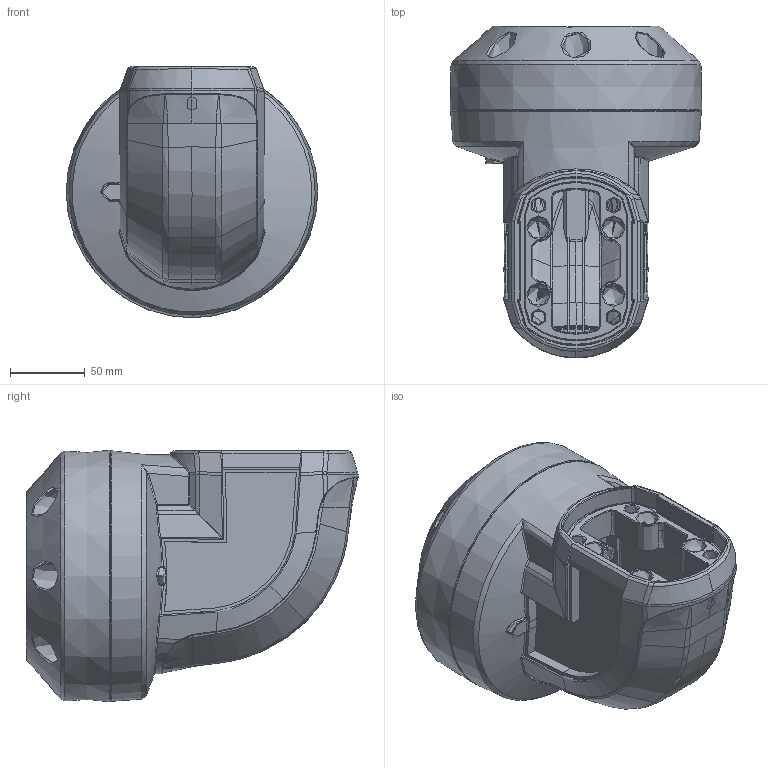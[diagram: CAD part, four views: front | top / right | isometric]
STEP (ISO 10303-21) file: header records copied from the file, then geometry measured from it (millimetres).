
FILE_DESCRIPTION(/* description */ (''),/* implementation_level */ '2;1');
FILE_NAME(/* name */ '75-110-590.stp',/* time_stamp */ '2023-01-13T16:31:02+08:00',/* author */ (''),/* organization */ (''),/* preprocessor_version */ 'ST-DEVELOPER v11',/* originating_system */ 'SIEMENS PLM Software NX 7.0',/* authorisation */ '');
FILE_SCHEMA (('AUTOMOTIVE_DESIGN { 1 0 10303 214 1 1 1 1 }'));
Products named in the file (1): PCCFB1eyvk
Bounding box: 168.52 x 222.44 x 168.52 mm (x, y, z)
Volume: 924466.7 mm3; surface area: 316064 mm2
Topology: 3 solids, 11 shells, 2163 faces, 5184 edges, 3047 vertices
Faces by surface type: bspline 1078, cylinder 368, plane 305, torus 205, cone 144, extrusion 33, sphere 30
Full cylindrical faces by diameter (mm): 3.5 x2, 4.5 x1, 8.5 x1, 9.398 x4, 13.643 x4, 13.754 x4
Entity records: 106832 total; most frequent: CARTESIAN_POINT 59331, ORIENTED_EDGE 9698, DIRECTION 6248, EDGE_CURVE 4849, VERTEX_POINT 2949, AXIS2_PLACEMENT_3D 2689, EDGE_LOOP 2484, B_SPLINE_CURVE_WITH_KNOTS 2194
